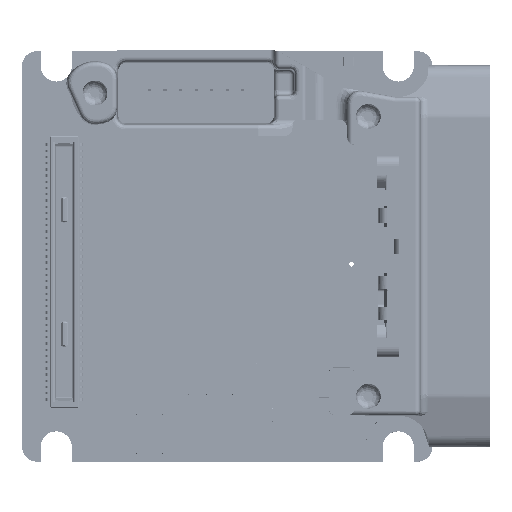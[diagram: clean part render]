
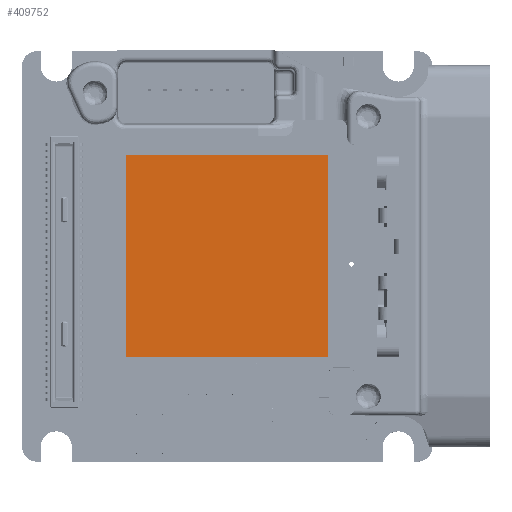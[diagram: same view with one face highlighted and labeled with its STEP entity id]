
A CAD part, top view. The second image highlights one B-rep face of the part: STEP entity #409752.
In plain terms, the highlighted planar face has unit normal (0, 0, 1).
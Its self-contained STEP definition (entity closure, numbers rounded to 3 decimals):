
#80224 = EDGE_CURVE ( 'NONE', #602128, #480009, #274026, .T. ) ;
#87190 = FACE_OUTER_BOUND ( 'NONE', #262154, .T. ) ;
#120718 = ORIENTED_EDGE ( 'NONE', *, *, #662974, .F. ) ;
#132883 = CARTESIAN_POINT ( 'NONE',  ( 6.5, -6.5, 6.167 ) ) ;
#159756 = LINE ( 'NONE', #171362, #559859 ) ;
#160287 = CARTESIAN_POINT ( 'NONE',  ( -6.5, -6.5, 6.167 ) ) ;
#162287 = VECTOR ( 'NONE', #657244, 1000. ) ;
#171362 = CARTESIAN_POINT ( 'NONE',  ( 6.5, -6.5, 6.167 ) ) ;
#186741 = VECTOR ( 'NONE', #384157, 1000. ) ;
#201099 = CARTESIAN_POINT ( 'NONE',  ( -6.5, -6.5, 6.167 ) ) ;
#203727 = LINE ( 'NONE', #443132, #186741 ) ;
#245070 = LINE ( 'NONE', #429522, #162287 ) ;
#262154 = EDGE_LOOP ( 'NONE', ( #750154, #120718, #319419, #403289 ) ) ;
#274026 = LINE ( 'NONE', #160287, #632143 ) ;
#317820 = VERTEX_POINT ( 'NONE', #465923 ) ;
#319419 = ORIENTED_EDGE ( 'NONE', *, *, #754799, .F. ) ;
#336766 = DIRECTION ( 'NONE',  ( 0., 1., 0. ) ) ;
#384157 = DIRECTION ( 'NONE',  ( 0., -1., 0. ) ) ;
#403289 = ORIENTED_EDGE ( 'NONE', *, *, #80224, .F. ) ;
#404039 = EDGE_CURVE ( 'NONE', #534977, #602128, #159756, .T. ) ;
#409752 = ADVANCED_FACE ( 'NONE', ( #87190 ), #444392, .T. ) ;
#429522 = CARTESIAN_POINT ( 'NONE',  ( -6.5, 6.5, 6.167 ) ) ;
#439392 = AXIS2_PLACEMENT_3D ( 'NONE', #201099, #452071, #506935 ) ;
#443132 = CARTESIAN_POINT ( 'NONE',  ( 6.5, 6.5, 6.167 ) ) ;
#444392 = PLANE ( 'NONE',  #439392 ) ;
#452071 = DIRECTION ( 'NONE',  ( 0., 0., 1. ) ) ;
#465923 = CARTESIAN_POINT ( 'NONE',  ( 6.5, 6.5, 6.167 ) ) ;
#480009 = VERTEX_POINT ( 'NONE', #570199 ) ;
#506935 = DIRECTION ( 'NONE',  ( 1., 0., 0. ) ) ;
#534977 = VERTEX_POINT ( 'NONE', #132883 ) ;
#536060 = CARTESIAN_POINT ( 'NONE',  ( -6.5, -6.5, 6.167 ) ) ;
#559859 = VECTOR ( 'NONE', #646157, 1000. ) ;
#570199 = CARTESIAN_POINT ( 'NONE',  ( -6.5, 6.5, 6.167 ) ) ;
#602128 = VERTEX_POINT ( 'NONE', #536060 ) ;
#632143 = VECTOR ( 'NONE', #336766, 1000. ) ;
#646157 = DIRECTION ( 'NONE',  ( -1., 0., 0. ) ) ;
#657244 = DIRECTION ( 'NONE',  ( 1., 0., 0. ) ) ;
#662974 = EDGE_CURVE ( 'NONE', #317820, #534977, #203727, .T. ) ;
#750154 = ORIENTED_EDGE ( 'NONE', *, *, #404039, .F. ) ;
#754799 = EDGE_CURVE ( 'NONE', #480009, #317820, #245070, .T. ) ;
